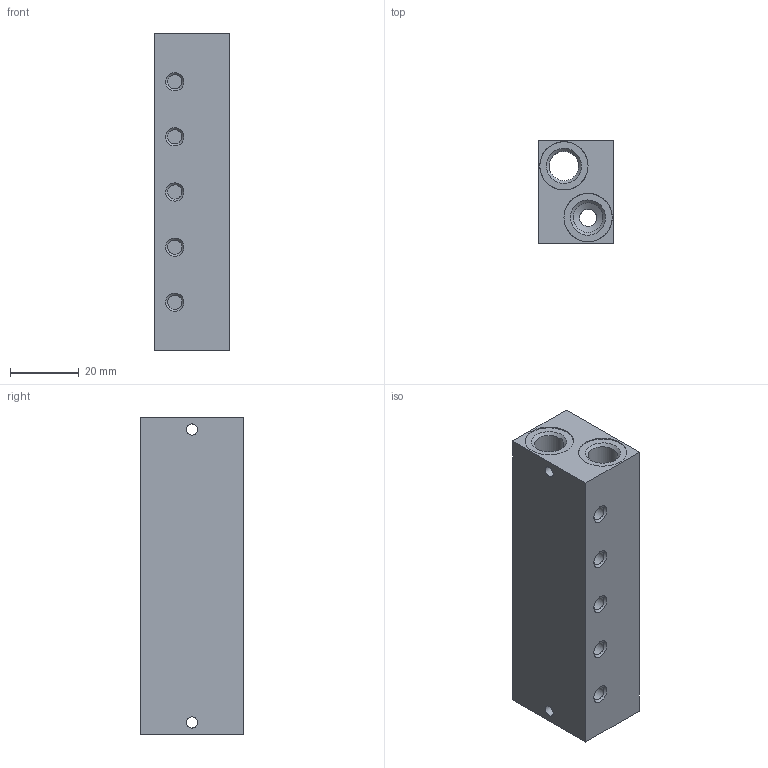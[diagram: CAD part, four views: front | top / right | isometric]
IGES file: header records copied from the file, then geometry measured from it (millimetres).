
Global section: file name: 355_05; native system: Autodesk Inventor 2014; preprocessor: unknown; author: R.Rivoltella; organization: Pneumax S.p.A.; date: 20161003.105251; units: millimetre
Bounding box: 22 x 30 x 92 mm (x, y, z)
Volume: 51456.4 mm3; surface area: 16128.1 mm2
Topology: 1 solids, 1 shells, 75 faces, 220 edges, 158 vertices
Faces by surface type: bspline 75
